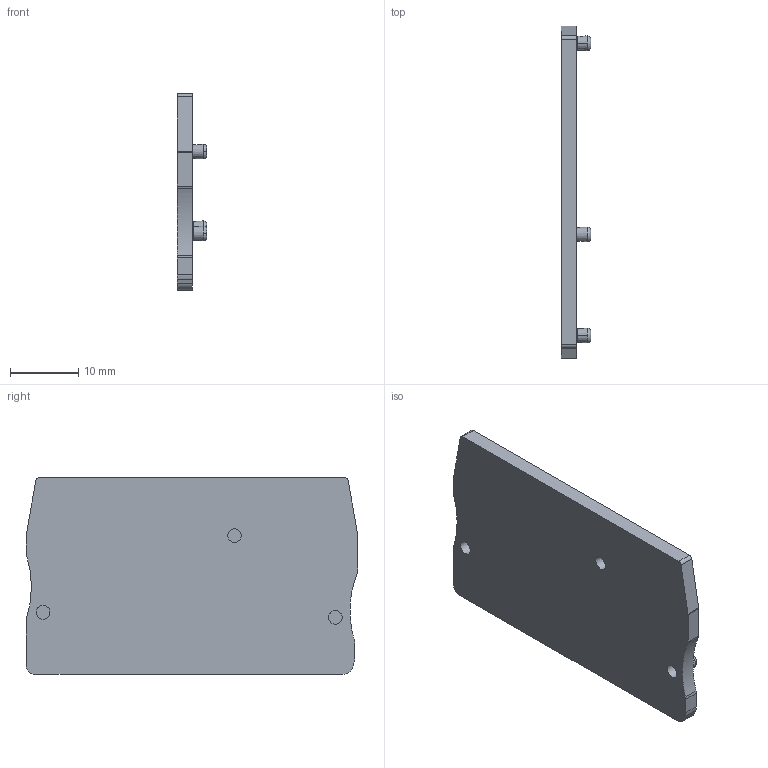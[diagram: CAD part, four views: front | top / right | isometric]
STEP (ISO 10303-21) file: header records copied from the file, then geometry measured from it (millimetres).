
FILE_DESCRIPTION(('Open CASCADE Model'),'2;1');
FILE_NAME('Open CASCADE Shape Model','2022-12-06T16:04:29',('Author'),( 'Open CASCADE'),'Open CASCADE STEP processor 6.5','Open CASCADE 6.5' ,'Unknown');
FILE_SCHEMA(('AUTOMOTIVE_DESIGN { 1 0 10303 214 1 1 1 1 }'));
Length unit declared in the file: millimetre
Products named in the file (112): CADSOFTTOOLS 5; CADSOFTTOOLS 5.1; CADSOFTTOOLS 5.2; CADSOFTTOOLS 5.3; CADSOFTTOOLS 5.4; CADSOFTTOOLS 5.5; CADSOFTTOOLS 5.6; CADSOFTTOOLS 5.7; CADSOFTTOOLS 5.8; CADSOFTTOOLS 5.9; CADSOFTTOOLS 5.10; CADSOFTTOOLS 5.11; CADSOFTTOOLS 5.12; CADSOFTTOOLS 5.13; CADSOFTTOOLS 5.14; CADSOFTTOOLS 5.15; CADSOFTTOOLS 5.16; CADSOFTTOOLS 5.17; CADSOFTTOOLS 5.18; CADSOFTTOOLS 5.19; CADSOFTTOOLS 5.20; CADSOFTTOOLS 5.21; CADSOFTTOOLS 5.22; CADSOFTTOOLS 5.23; CADSOFTTOOLS 5.24; CADSOFTTOOLS 5.25; CADSOFTTOOLS 5.26; CADSOFTTOOLS 5.27; CADSOFTTOOLS 5.28; CADSOFTTOOLS 5.29; CADSOFTTOOLS 5.30; CADSOFTTOOLS 5.31; CADSOFTTOOLS 5.32; CADSOFTTOOLS 5.33; CADSOFTTOOLS 5.34; CADSOFTTOOLS 5.35; CADSOFTTOOLS 5.36; CADSOFTTOOLS 5.37; CADSOFTTOOLS 5.38; CADSOFTTOOLS 5.39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
Assembly tree (111 placements, depth 2):
  CADSOFTTOOLS 5
    CADSOFTTOOLS 5.1
    CADSOFTTOOLS 5.2
    CADSOFTTOOLS 5.3
    CADSOFTTOOLS 5.4
    CADSOFTTOOLS 5.5
    CADSOFTTOOLS 5.6
    CADSOFTTOOLS 5.7
    CADSOFTTOOLS 5.8
    CADSOFTTOOLS 5.9
    CADSOFTTOOLS 5.10
    CADSOFTTOOLS 5.11
    CADSOFTTOOLS 5.12
    CADSOFTTOOLS 5.13
    CADSOFTTOOLS 5.14
    CADSOFTTOOLS 5.15
    CADSOFTTOOLS 5.16
    CADSOFTTOOLS 5.17
    CADSOFTTOOLS 5.18
    CADSOFTTOOLS 5.19
    CADSOFTTOOLS 5.20
    CADSOFTTOOLS 5.21
    CADSOFTTOOLS 5.22
    CADSOFTTOOLS 5.23
    CADSOFTTOOLS 5.24
    CADSOFTTOOLS 5.25
    CADSOFTTOOLS 5.26
    CADSOFTTOOLS 5.27
    CADSOFTTOOLS 5.28
    CADSOFTTOOLS 5.29
    CADSOFTTOOLS 5.30
    CADSOFTTOOLS 5.31
    CADSOFTTOOLS 5.32
    CADSOFTTOOLS 5.33
    CADSOFTTOOLS 5.34
    CADSOFTTOOLS 5.35
    CADSOFTTOOLS 5.36
    CADSOFTTOOLS 5.37
    CADSOFTTOOLS 5.38
    CADSOFTTOOLS 5.39
    CADSOFTTOOLS 5.40
    CADSOFTTOOLS 5.41
    CADSOFTTOOLS 5.42
    CADSOFTTOOLS 5.43
    CADSOFTTOOLS 5.44
    CADSOFTTOOLS 5.45
    CADSOFTTOOLS 5.46
    CADSOFTTOOLS 5.47
    CADSOFTTOOLS 5.48
    CADSOFTTOOLS 5.49
    CADSOFTTOOLS 5.50
    CADSOFTTOOLS 5.51
    CADSOFTTOOLS 5.52
    CADSOFTTOOLS 5.53
    CADSOFTTOOLS 5.54
    CADSOFTTOOLS 5.55
    CADSOFTTOOLS 5.56
    CADSOFTTOOLS 5.57
    CADSOFTTOOLS 5.58
    CADSOFTTOOLS 5.59
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Bounding box: 4.3 x 48.5 x 28.7 mm (x, y, z)
Surface area: 3424 mm2 (no closed solid volume)
Topology: 0 solids, 111 shells, 111 faces, 603 edges, 598 vertices
Faces by surface type: cylinder 43, plane 39, cone 11, bspline 10, torus 8
Full cylindrical faces by diameter (mm): 2 x3, 3.5 x1
Entity records: 15947 total; most frequent: CARTESIAN_POINT 6312, DIRECTION 1576, ORIENTED_EDGE 608, PCURVE 608, DEFINITIONAL_REPRESENTATION 608, EDGE_CURVE 603, VERTEX_POINT 598, SURFACE_CURVE 598
